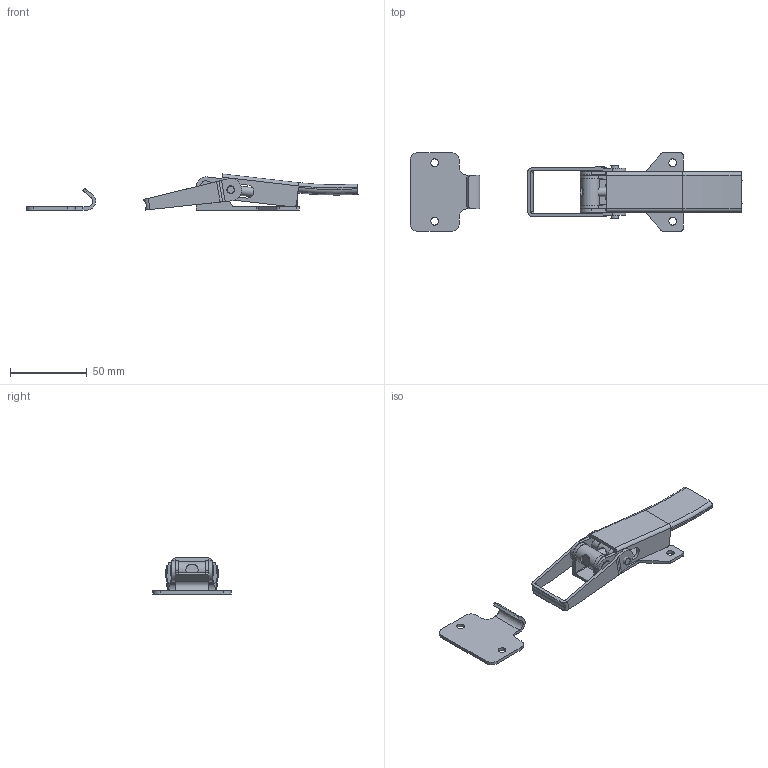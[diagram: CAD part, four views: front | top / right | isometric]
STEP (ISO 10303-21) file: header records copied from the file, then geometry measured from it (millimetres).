
FILE_DESCRIPTION(/* description */ (''),/* implementation_level */ '2;1');
FILE_NAME(/* name */ '\\NAS\db20\C-M72\DR_C-M72.stp',/* time_stamp */ '2018-03-01T15:52:16+09:00',/* author */ ('user'),/* organization */ (''),/* preprocessor_version */ 'ST-DEVELOPER v15.6',/* originating_system */ 'Autodesk Inventor 2015',/* authorisation */ '');
FILE_SCHEMA (('AUTOMOTIVE_DESIGN { 1 0 10303 214 3 1 1 }'));
Length unit declared in the file: millimetre
Products named in the file (6): DR_C-M72; DR_C-M72-BR; DR_C-M72-C; DR_C-M72-CA; DR_C-M72-P
Bounding box: 215.6 x 51 x 23.39 mm (x, y, z)
Volume: 27159.3 mm3; surface area: 27963.3 mm2
Topology: 5 solids, 5 shells, 201 faces, 525 edges, 343 vertices
Faces by surface type: cylinder 90, plane 87, torus 12, bspline 8, cone 4
Full cylindrical faces by diameter (mm): 3 x1, 4.5 x2, 5 x8, 6 x2, 8 x8, 11.5 x1, 12 x1
Entity records: 6844 total; most frequent: CARTESIAN_POINT 1750, DIRECTION 1069, ORIENTED_EDGE 982, EDGE_CURVE 491, AXIS2_PLACEMENT_3D 413, VERTEX_POINT 334, EDGE_LOOP 263, LINE 243
